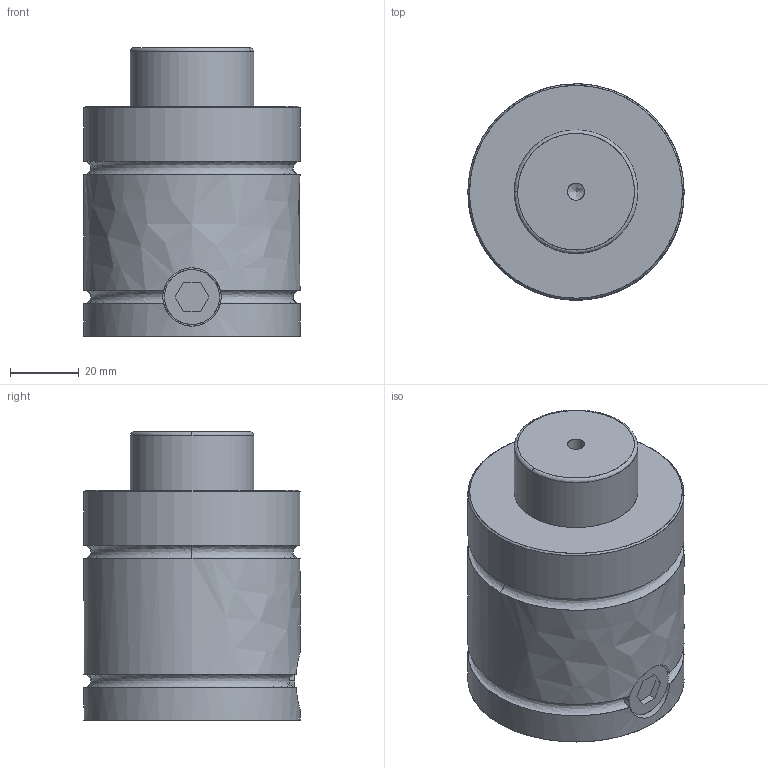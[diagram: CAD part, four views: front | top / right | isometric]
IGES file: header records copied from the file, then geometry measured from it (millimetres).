
Start section: VISI Layer Mapping Iges    VISI  0      LAYER_EMPTY  1      wwww  7      W_PD700  8      S_PD700  10     W_PD1000  11     S_PD1000  13     W_PD2000  14     S_PD2000  16     W_PD3000  17     S_PD3000  19     W_PD4000  20     S_PD4000  22     W_PD7000  23     S_PD7000  28     W_350  29     MS-350  30     MC-350  31     MP-350  32     MB-350  33     MH-350  34     MK-350  35     MPL-350  39     W_500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
Global section: file name: E:\だ錶臢\だ錶臢3D\SYLINDER\PT Series\PT1500\PT1500\PT1500-16.igs; native system: VISI 16.0; preprocessor: 2.0; author: 11; organization: 0; date: 500.; units: mil
Bounding box: 63 x 63 x 84 mm (x, y, z)
Surface area: 24120.3 mm2 (no closed solid volume)
Topology: 0 solids, 0 shells, 33 faces, 476 edges, 450 vertices
Faces by surface type: bspline 33
